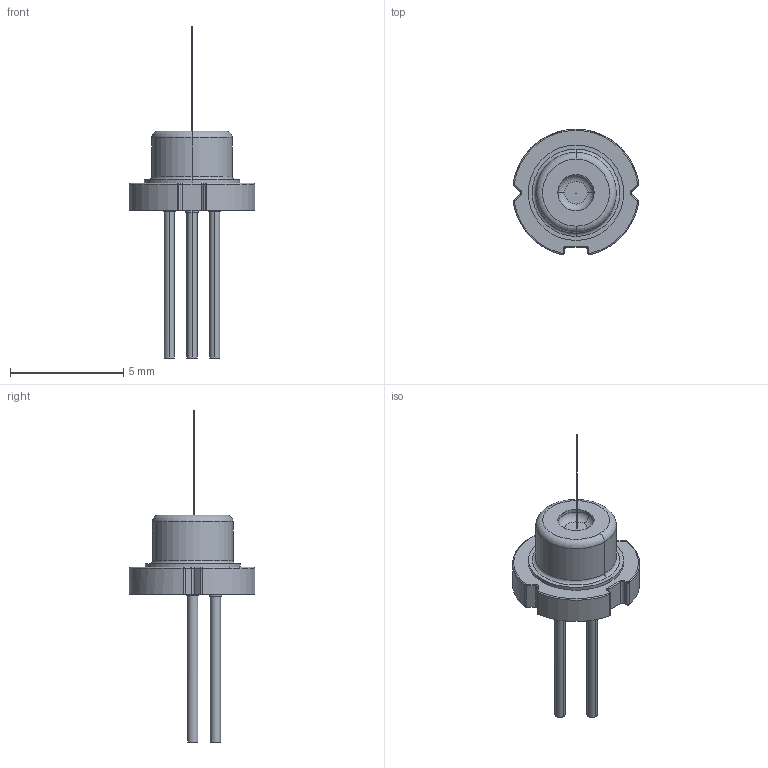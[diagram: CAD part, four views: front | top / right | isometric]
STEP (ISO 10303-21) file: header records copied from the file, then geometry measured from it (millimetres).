
FILE_DESCRIPTION (( 'STEP AP214' ), '1' );
FILE_NAME ('XPG3AUXXXX REV P1 (FILLED, ORIENTATION CHANGE, WITH BEAM AXE).STEP', '2025-06-05T18:32:13', ( '' ), ( '' ), 'SwSTEP 2.0', 'SolidWorks 2024', '' );
FILE_SCHEMA (( 'AUTOMOTIVE_DESIGN' ));
Length unit declared in the file: millimetre
Products named in the file (2): XPG3AUXXXX REV P1 (FILLED, ORIENTATION CHANGE, WITH BEAM AXE); XPG3AUXXXX REV P1 AS PART FOR STEP FILE (FULL)
Assembly tree (1 placements, depth 2):
  XPG3AUXXXX REV P1 (FILLED, ORIENTATION CHANGE, WITH BEAM AXE)
    XPG3AUXXXX REV P1 AS PART FOR STEP FILE (FULL)
Bounding box: 5.54 x 5.53 x 14.63 mm (x, y, z)
Volume: 43.5 mm3; surface area: 243.1 mm2
Topology: 11 solids, 11 shells, 208 faces, 474 edges, 280 vertices
Faces by surface type: cylinder 88, plane 52, torus 46, bspline 12, cone 6, sphere 4
Entity records: 6195 total; most frequent: CARTESIAN_POINT 1406, DIRECTION 1043, ORIENTED_EDGE 932, EDGE_CURVE 466, AXIS2_PLACEMENT_3D 434, VERTEX_POINT 280, CIRCLE 234, EDGE_LOOP 220
